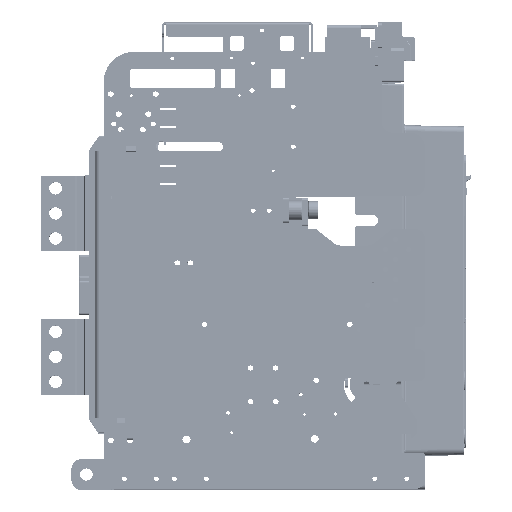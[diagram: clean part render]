
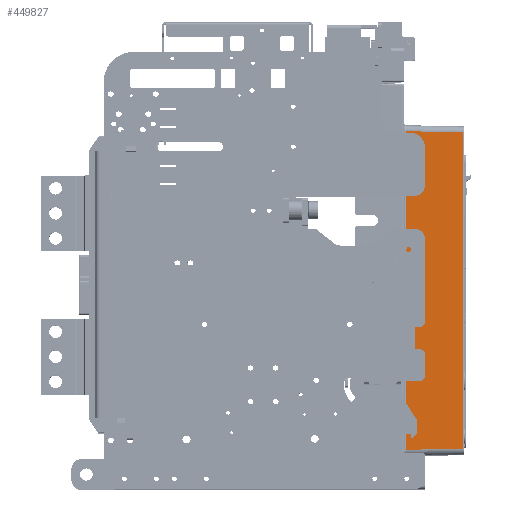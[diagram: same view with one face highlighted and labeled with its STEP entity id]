
A CAD part, top view. The second image highlights one B-rep face of the part: STEP entity #449827.
In plain terms, the highlighted planar face has unit normal (0.018, 0, 1) as drawn and (-1, 0, 0.017) by its records, which use the part's own axes.
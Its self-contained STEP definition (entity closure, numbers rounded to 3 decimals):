
#431207=DIRECTION('',(0.,-1.,0.));
#431208=VECTOR('',#431207,315.942);
#431209=CARTESIAN_POINT('',(-133.97,144.321,
108.017));
#431210=LINE('',#431209,#431208);
#431211=DIRECTION('',(0.017,0.017,1.));
#431212=VECTOR('',#431211,57.07);
#431213=CARTESIAN_POINT('',(-134.966,-172.617,
50.965));
#431214=LINE('',#431213,#431212);
#431215=DIRECTION('',(0.,1.,0.));
#431216=VECTOR('',#431215,317.934);
#431217=CARTESIAN_POINT('',(-134.966,-172.617,
50.965));
#431218=LINE('',#431217,#431216);
#431219=DIRECTION('',(-0.017,0.017,-1.));
#431220=VECTOR('',#431219,57.07);
#431221=CARTESIAN_POINT('',(-133.97,144.321,
108.017));
#431222=LINE('',#431221,#431220);
#445811=CARTESIAN_POINT('',(-133.97,144.321,
108.017));
#448802=CARTESIAN_POINT('',(-134.966,-172.617,
50.965));
#448803=CARTESIAN_POINT('',(-134.966,145.317,
50.965));
#448804=VERTEX_POINT('',#448802);
#448805=VERTEX_POINT('',#448803);
#448843=VERTEX_POINT('',#445811);
#448846=CARTESIAN_POINT('',(-133.97,-171.621,
108.017));
#448847=VERTEX_POINT('',#448846);
#449813=CARTESIAN_POINT('',(-135.,151.35,49.));
#449814=DIRECTION('',(-1.,0.,0.017));
#449815=DIRECTION('',(0.,-1.,0.));
#449816=AXIS2_PLACEMENT_3D('',#449813,#449814,#449815);
#449817=PLANE('',#449816);
#449819=ORIENTED_EDGE('',*,*,#449818,.T.);
#449821=ORIENTED_EDGE('',*,*,#449820,.F.);
#449822=ORIENTED_EDGE('',*,*,#449803,.T.);
#449824=ORIENTED_EDGE('',*,*,#449823,.F.);
#449825=EDGE_LOOP('',(#449819,#449821,#449822,#449824));
#449826=FACE_OUTER_BOUND('',#449825,.F.);
#449827=ADVANCED_FACE('',(#449826),#449817,.T.);
#449803=EDGE_CURVE('',#448804,#448805,#431218,.T.);
#449818=EDGE_CURVE('',#448843,#448847,#431210,.T.);
#449820=EDGE_CURVE('',#448804,#448847,#431214,.T.);
#449823=EDGE_CURVE('',#448843,#448805,#431222,.T.);
